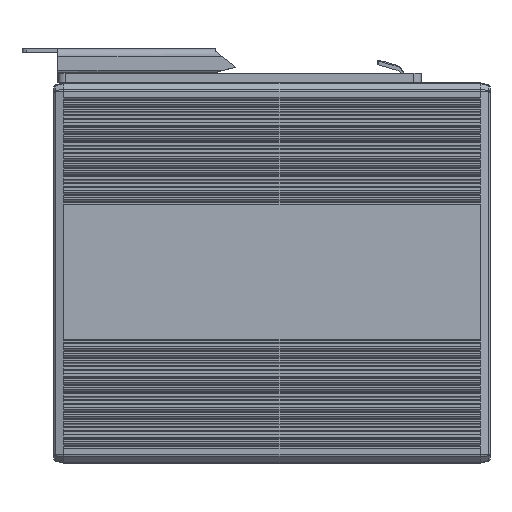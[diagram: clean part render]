
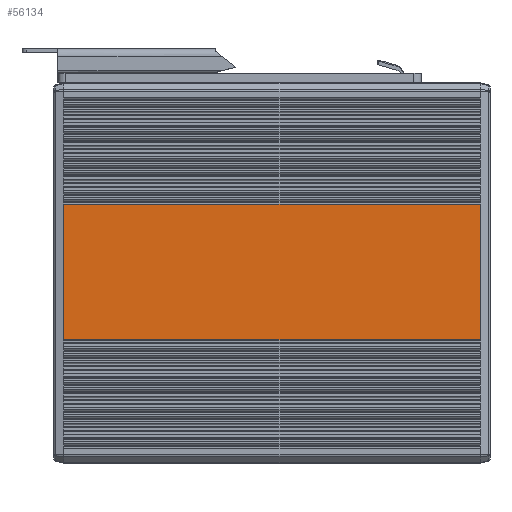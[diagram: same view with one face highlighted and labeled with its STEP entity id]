
A CAD part, left-side view. The second image highlights one B-rep face of the part: STEP entity #56134.
In plain terms, the highlighted planar face has unit normal (-1, 0, 0).
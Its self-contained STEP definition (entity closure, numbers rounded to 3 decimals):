
#8990=DIRECTION('',(0.,0.,-1.));
#8991=VECTOR('',#8990,28.);
#8992=CARTESIAN_POINT('',(-20.,-43.,8.5));
#8993=LINE('',#8992,#8991);
#8994=DIRECTION('',(0.,1.,0.));
#8995=VECTOR('',#8994,86.);
#8996=CARTESIAN_POINT('',(-20.,-43.,-19.5));
#8997=LINE('',#8996,#8995);
#8998=DIRECTION('',(0.,0.,1.));
#8999=VECTOR('',#8998,28.);
#9000=CARTESIAN_POINT('',(-20.,43.,-19.5));
#9001=LINE('',#9000,#8999);
#9002=DIRECTION('',(0.,1.,0.));
#9003=VECTOR('',#9002,86.);
#9004=CARTESIAN_POINT('',(-20.,-43.,8.5));
#9005=LINE('',#9004,#9003);
#40218=CARTESIAN_POINT('',(-20.,43.,-19.5));
#40219=CARTESIAN_POINT('',(-20.,43.,8.5));
#40220=VERTEX_POINT('',#40218);
#40221=VERTEX_POINT('',#40219);
#43874=CARTESIAN_POINT('',(-20.,-43.,8.5));
#43875=CARTESIAN_POINT('',(-20.,-43.,-19.5));
#43876=VERTEX_POINT('',#43874);
#43877=VERTEX_POINT('',#43875);
#56121=CARTESIAN_POINT('',(-20.,-43.,-22.5));
#56122=DIRECTION('',(-1.,0.,0.));
#56123=DIRECTION('',(0.,0.,1.));
#56124=AXIS2_PLACEMENT_3D('',#56121,#56122,#56123);
#56125=PLANE('',#56124);
#56126=ORIENTED_EDGE('',*,*,#55125,.T.);
#56128=ORIENTED_EDGE('',*,*,#56127,.T.);
#56130=ORIENTED_EDGE('',*,*,#56129,.T.);
#56131=ORIENTED_EDGE('',*,*,#56112,.F.);
#56132=EDGE_LOOP('',(#56126,#56128,#56130,#56131));
#56133=FACE_OUTER_BOUND('',#56132,.F.);
#56134=ADVANCED_FACE('',(#56133),#56125,.T.);
#55125=EDGE_CURVE('',#43876,#43877,#8993,.T.);
#56112=EDGE_CURVE('',#43876,#40221,#9005,.T.);
#56127=EDGE_CURVE('',#43877,#40220,#8997,.T.);
#56129=EDGE_CURVE('',#40220,#40221,#9001,.T.);
